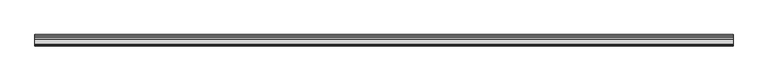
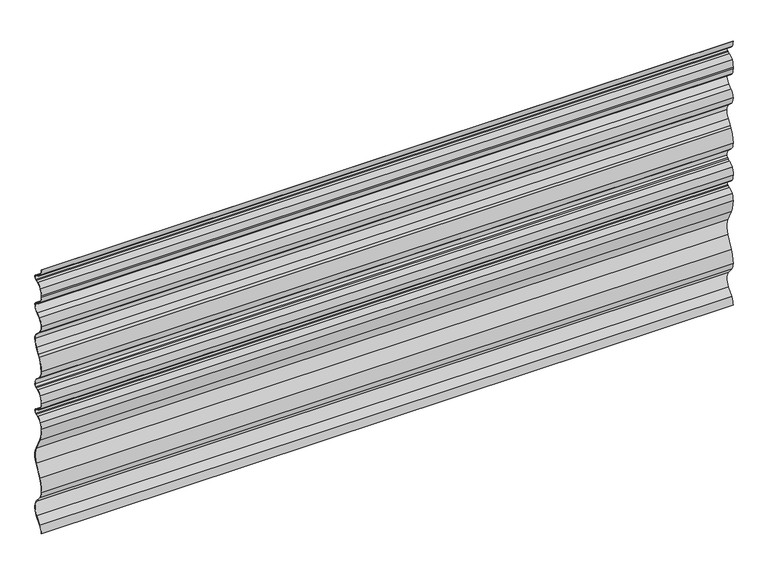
"""IFC4 building model written with IfcOpenShell, lengths in millimetres: plate geometry, Ritmica Horizontal 928 : Ritmica Horizontal 928."""

from ifc_helpers import new_model, si_unit, frame, origin, place, context, project, spatial, polyline, circle_curve, source, transform, mapped, element, save
from ifc_brep_helpers import plane_surface, cylinder_surface, revolved_surface, advanced_brep


def plate_fcad7bac(model_context):
    return source(origin(), model_context, "Body", "AdvancedBrep", [
        advanced_brep(
        [(-1149.0935453, 6.5092615, 908.0620129), (-1149.0935453, 21.2621067, 895.6153968), (-1149.0935453, 28.45755, 892.7364297), (-1149.0935453, 31.9226364, 891.0770661), (-1149.0935453, 31.9284533, 875.0954695), (-1149.0935453, 28.4645758, 873.4335839), (-1149.0935453, 21.2712303, 870.5493796), (-1149.0935453, 6.5274495, 858.0920274), (-1149.0935453, 0.7421798, 836.9983174), (-1149.0935453, 0.7421798, 831.6596456), (-1149.0935453, 6.5447465, 810.5701527), (-1149.0935453, 21.2975918, 798.1235366), (-1149.0935453, 28.493035, 795.2445695), (-1149.0935453, 31.9581214, 793.5852059), (-1149.0935453, 36.9921573, 785.5962388), (-1149.0935453, 24.9656186, 760.6206134), (-1149.0935453, 12.9828956, 751.0704574), (-1149.0935453, 1.0048783, 728.5919745), (-1149.0935453, 13.0090533, 701.127971), (-1149.0935453, 24.9992939, 690.0241978), (-1149.0935453, 37.0440106, 665.0573339), (-1149.0935453, 28.6299997, 638.3240963), (-1149.0935453, 17.4991449, 620.9910926), (-1149.0935453, 13.1043036, 613.5575548), (-1149.0935453, 0.921776, 569.3793833), (-1149.0935453, 12.9259511, 541.9153798), (-1149.0935453, 24.9161915, 530.8116067), (-1149.0935453, 36.9609087, 505.8415328), (-1149.0935453, 31.9326896, 497.8521133), (-1149.0935453, 28.4688119, 496.1902275), (-1149.0935453, 21.2754341, 493.3060102), (-1149.0935453, 6.5316868, 480.8486726), (-1149.0935453, 0.8337564, 457.0856569), (-1149.0935453, 6.3430179, 437.5469103), (-1149.0935453, 21.0958632, 425.1002943), (-1149.0935453, 28.2913064, 422.2213272), (-1149.0935453, 31.7563928, 420.5619636), (-1149.0935453, 31.7622098, 404.580367), (-1149.0935453, 28.2983323, 402.9184814), (-1149.0935453, 21.1049867, 400.034277), (-1149.0935453, 6.361206, 387.5769248), (-1149.0935453, 0.8661693, 368.0341733), (-1149.0935453, 10.0476711, 324.2892209), (-1149.0935453, 30.4443377, 283.7581494), (-1149.0935453, 30.4639577, 229.8542794), (-1149.0935453, 10.0968014, 189.3083707), (-1149.0935453, 0.9471466, 145.5567461), (-1149.0935453, 9.5590077, 121.7925982), (-1149.0935453, 28.254799, 99.3683726), (-1149.0935453, 28.274038, 46.5109184), (-1149.0935453, 9.5945757, 23.7707747), (-1149.0935453, 1.0000163, 0.0), (-1149.0935453, 1.63e-05, 0.0), (-1149.0935453, 8.826039, 24.4105804), (-1149.0935453, 27.4885473, 47.1303588), (-1149.0935453, 27.4697594, 98.7483605), (-1149.0935453, 8.790937, 121.1522332), (-1149.0935453, -0.0528427, 145.5386154), (-1149.0935453, 9.1993025, 189.7494732), (-1149.0935453, 29.5703625, 230.3031531), (-1149.0935453, 29.5510695, 283.3086253), (-1149.0935453, 9.1504935, 323.8474651), (-1149.0935453, -0.133833, 368.0515751), (-1149.0935453, 5.5079347, 388.0983921), (-1149.0935453, 20.7330524, 400.9625361), (-1149.0935453, 27.895533, 403.834365), (-1149.0935453, 31.3296428, 405.4819688), (-1149.0935453, 31.3244823, 419.6600471), (-1149.0935453, 27.889174, 421.3051505), (-1149.0935453, 20.7246046, 424.1717647), (-1149.0935453, 5.4901265, 437.024822), (-1149.0935453, -0.1662181, 457.0529178), (-1149.0935453, 5.6750593, 481.3646468), (-1149.0935453, 20.9034647, 494.2342551), (-1149.0935453, 28.0660127, 497.1061111), (-1149.0935453, 31.5001226, 498.7537151), (-1149.0935453, 35.9609087, 505.841531), (-1149.0935453, 24.2645169, 530.052163), (-1149.0935453, 12.2464871, 541.1816709), (-1149.0935453, -0.0782183, 569.3680226), (-1149.0935453, 12.2502128, 614.0778463), (-1149.0935453, 16.6477304, 621.5159109), (-1149.0935453, 27.7982686, 638.8795656), (-1149.0935453, 36.04401, 665.0587755), (-1149.0935453, 24.3475224, 689.2648438), (-1149.0935453, 12.3295893, 700.3942621), (-1149.0935453, 0.0048783, 728.5916105), (-1149.0935453, 12.391292, 751.8777021), (-1149.0935453, 24.342358, 761.4026277), (-1149.0935453, 35.9921573, 785.5958749), (-1149.0935453, 31.5262109, 792.6832895), (-1149.0935453, 28.0909026, 794.3283929), (-1149.0935453, 20.9248539, 797.1955989), (-1149.0935453, 5.6893168, 810.0521734), (-1149.0935453, -0.2558769, 831.6592816), (-1149.0935453, -0.2578202, 836.9981365), (-1149.0935453, 5.6708241, 858.6080051), (-1149.0935453, 20.8992959, 871.4776387), (-1149.0935453, 28.0617766, 874.3494676), (-1149.0935453, 31.4958863, 875.9970713), (-1149.0935453, 31.4907258, 890.1751497), (-1149.0935453, 28.0554176, 891.8202531), (-1149.0935453, 20.8908482, 894.6868673), (-1149.0935453, 5.6563701, 907.5399245), (-1149.0935453, 0.0, 927.600395), (-1149.0935453, 1.0000001, 927.600395), (1149.0935453, 6.5092615, 908.0620129), (1149.0935453, 1.0000001, 927.600395), (1149.0935453, 0.0, 927.600395), (1149.0935453, 5.6563701, 907.5399245), (1149.0935453, 20.8908482, 894.6868673), (1149.0935453, 28.0554176, 891.8202531), (1149.0935453, 31.4907258, 890.1751497), (1149.0935453, 31.4958863, 875.9970713), (1149.0935453, 28.0617766, 874.3494676), (1149.0935453, 20.8992959, 871.4776387), (1149.0935453, 5.6708241, 858.6080051), (1149.0935453, -0.2578202, 836.9981365), (1149.0935453, -0.2578202, 831.6596456), (1149.0935453, 5.6893168, 810.0521734), (1149.0935453, 20.9248539, 797.1955989), (1149.0935453, 28.0909026, 794.3283929), (1149.0935453, 31.5262109, 792.6832895), (1149.0935453, 35.9921573, 785.5958749), (1149.0935453, 24.342358, 761.4026277), (1149.0935453, 12.391292, 751.8777021), (1149.0935453, 0.0048783, 728.5916105), (1149.0935453, 12.3295893, 700.3942621), (1149.0935453, 24.3475224, 689.2648438), (1149.0935453, 36.04401, 665.0587755), (1149.0935453, 27.7982686, 638.8795656), (1149.0935453, 16.6477304, 621.5159109), (1149.0935453, 12.2502128, 614.0778463), (1149.0935453, -0.0782183, 569.3680226), (1149.0935453, 12.2464871, 541.1816709), (1149.0935453, 24.2645169, 530.052163), (1149.0935453, 35.9609087, 505.841531), (1149.0935453, 31.5001226, 498.7537151), (1149.0935453, 28.0660127, 497.1061111), (1149.0935453, 20.9034647, 494.2342551), (1149.0935453, 5.6750593, 481.3646468), (1149.0935453, -0.1662181, 457.0529178), (1149.0935453, 5.4901265, 437.024822), (1149.0935453, 20.7246046, 424.1717647), (1149.0935453, 27.889174, 421.3051505), (1149.0935453, 31.3244823, 419.6600471), (1149.0935453, 31.3296428, 405.4819688), (1149.0935453, 27.895533, 403.834365), (1149.0935453, 20.7330524, 400.9625361), (1149.0935453, 5.5079347, 388.0983921), (1149.0935453, -0.133833, 368.0515751), (1149.0935453, 9.1504935, 323.8474651), (1149.0935453, 29.5510695, 283.3086253), (1149.0935453, 29.5703625, 230.3031531), (1149.0935453, 9.1993025, 189.7494732), (1149.0935453, -0.0528427, 145.5386154), (1149.0935453, 8.790937, 121.1522332), (1149.0935453, 27.4697594, 98.7483605), (1149.0935453, 27.4885473, 47.1303588), (1149.0935453, 8.826039, 24.4105804), (1149.0935453, 1.63e-05, 0.0), (1149.0935453, 1.0000163, 0.0), (1149.0935453, 9.5945757, 23.7707747), (1149.0935453, 28.274038, 46.5109184), (1149.0935453, 28.254799, 99.3683726), (1149.0935453, 9.5590077, 121.7925982), (1149.0935453, 0.9471466, 145.5567461), (1149.0935453, 10.0968014, 189.3083707), (1149.0935453, 30.4639577, 229.8542794), (1149.0935453, 30.4443377, 283.7581494), (1149.0935453, 10.0476711, 324.2892209), (1149.0935453, 0.8661693, 368.0341733), (1149.0935453, 6.361206, 387.5769248), (1149.0935453, 21.1049867, 400.034277), (1149.0935453, 28.2983323, 402.9184814), (1149.0935453, 31.7622098, 404.580367), (1149.0935453, 31.7563928, 420.5619636), (1149.0935453, 28.2913064, 422.2213272), (1149.0935453, 21.0958632, 425.1002943), (1149.0935453, 6.3430179, 437.5469103), (1149.0935453, 0.8337564, 457.0856569), (1149.0935453, 6.5316868, 480.8486726), (1149.0935453, 21.2754341, 493.3060102), (1149.0935453, 28.4688119, 496.1902275), (1149.0935453, 31.9326896, 497.8521133), (1149.0935453, 36.9609087, 505.8415328), (1149.0935453, 24.9161915, 530.8116067), (1149.0935453, 12.9259511, 541.9153798), (1149.0935453, 0.921776, 569.3793833), (1149.0935453, 13.1043036, 613.5575548), (1149.0935453, 17.4991449, 620.9910926), (1149.0935453, 28.6299997, 638.3240963), (1149.0935453, 37.0440106, 665.0573339), (1149.0935453, 24.9992939, 690.0241978), (1149.0935453, 13.0090533, 701.127971), (1149.0935453, 1.0048783, 728.5919745), (1149.0935453, 12.9828956, 751.0704574), (1149.0935453, 24.9656186, 760.6206134), (1149.0935453, 36.9921573, 785.5962388), (1149.0935453, 31.9581214, 793.5852059), (1149.0935453, 28.493035, 795.2445695), (1149.0935453, 21.2975918, 798.1235366), (1149.0935453, 6.5447465, 810.5701527), (1149.0935453, 0.744123, 831.6596456), (1149.0935453, 0.7421798, 836.9983174), (1149.0935453, 6.5274495, 858.0920274), (1149.0935453, 21.2712303, 870.5493796), (1149.0935453, 28.4645758, 873.4335839), (1149.0935453, 31.9284533, 875.0954695), (1149.0935453, 31.9226364, 891.0770661), (1149.0935453, 28.45755, 892.7364297), (1149.0935453, 21.2621067, 895.6153968)],
        [
            (0, 1, circle_curve(frame((-1149.0935453, 32.6219637, 924.0466233), z_axis=(1.0, 0.0, 0.0), x_axis=(0.0, 0.0, 1.0)), 30.6166783)),
            (1, 2),
            (2, 3),
            (3, 4, circle_curve(frame((-1149.0935453, 28.0953282, 883.0848737), z_axis=(-1.0, 0.0, 0.0), x_axis=(0.0, 0.0, 1.0)), 8.8613445)),
            (4, 5),
            (5, 6),
            (6, 7, circle_curve(frame((-1149.0935453, 32.651781, 842.1264302), z_axis=(1.0, 0.0, 0.0), x_axis=(0.0, 0.0, 1.0)), 30.6166783)),
            (7, 8, circle_curve(frame((-1149.0935453, 42.034972, 837.0133472), z_axis=(1.0, 0.0, 0.0), x_axis=(0.0, 0.0, 1.0)), 41.2927949)),
            (8, 9),
            (9, 10, circle_curve(frame((-1149.0935453, 42.0369151, 831.6746753), z_axis=(1.0, 0.0, 0.0), x_axis=(0.0, 0.0, 1.0)), 41.2927949)),
            (10, 11, circle_curve(frame((-1149.0935453, 32.8606059, 826.7955631), z_axis=(1.0, 0.0, 0.0), x_axis=(0.0, 0.0, 1.0)), 30.9158276)),
            (11, 12),
            (12, 13),
            (13, 14, circle_curve(frame((-1149.0935453, 28.1308133, 785.5930135), z_axis=(-1.0, 0.0, 0.0), x_axis=(0.0, 0.0, 1.0)), 8.8613445)),
            (14, 15, circle_curve(frame((-1149.0935453, 5.0694602, 785.5846196), z_axis=(-1.0, 0.0, 0.0), x_axis=(0.0, 0.0, 1.0)), 31.9226992)),
            (15, 16),
            (16, 17, circle_curve(frame((-1149.0935453, 28.0674647, 728.6018247), z_axis=(1.0, 0.0, 0.0), x_axis=(0.0, 0.0, 1.0)), 27.0625882)),
            (17, 18, circle_curve(frame((-1149.0935453, 38.4552002, 728.6056057), z_axis=(1.0, 0.0, 0.0), x_axis=(0.0, 0.0, 1.0)), 37.4503244)),
            (18, 19),
            (19, 20, circle_curve(frame((-1149.0935453, 5.1213136, 665.0457146), z_axis=(-1.0, 0.0, 0.0), x_axis=(0.0, 0.0, 1.0)), 31.9226992)),
            (20, 21, circle_curve(frame((-1149.0935453, -10.1198118, 665.2109304), z_axis=(-1.0, 0.0, 0.0), x_axis=(0.0, 0.0, 1.0)), 47.1640725)),
            (21, 22),
            (22, 23),
            (23, 24, circle_curve(frame((-1149.0935453, 80.6713796, 571.1565204), z_axis=(1.0, 0.0, 0.0), x_axis=(0.0, 0.0, 1.0)), 79.769402)),
            (24, 25, circle_curve(frame((-1149.0935453, 38.372098, 569.3930144), z_axis=(1.0, 0.0, 0.0), x_axis=(0.0, 0.0, 1.0)), 37.4503244)),
            (25, 26),
            (26, 27, circle_curve(frame((-1149.0935453, 5.0555271, 505.8414768), z_axis=(-1.0, 0.0, 0.0), x_axis=(0.0, 0.0, 1.0)), 31.9053816)),
            (27, 28, circle_curve(frame((-1149.0935453, 28.0995643, 505.8415173), z_axis=(-1.0, 0.0, 0.0), x_axis=(0.0, 0.0, 1.0)), 8.8613444)),
            (28, 29),
            (29, 30),
            (30, 31, circle_curve(frame((-1149.0935453, 32.6560172, 464.8830737), z_axis=(1.0, 0.0, 0.0), x_axis=(0.0, 0.0, 1.0)), 30.6166783)),
            (31, 32, circle_curve(frame((-1149.0935453, 42.0392082, 459.7699907), z_axis=(1.0, 0.0, 0.0), x_axis=(0.0, 0.0, 1.0)), 41.2927948)),
            (32, 33, circle_curve(frame((-1149.0935453, 38.2840783, 457.0992876), z_axis=(1.0, 0.0, 0.0), x_axis=(0.0, 0.0, 1.0)), 37.4503244)),
            (33, 34, circle_curve(frame((-1149.0935453, 32.4557202, 453.5315208), z_axis=(1.0, 0.0, 0.0), x_axis=(0.0, 0.0, 1.0)), 30.6166783)),
            (34, 35),
            (35, 36),
            (36, 37, circle_curve(frame((-1149.0935453, 27.9290847, 412.5697711), z_axis=(-1.0, 0.0, 0.0), x_axis=(0.0, 0.0, 1.0)), 8.8613445)),
            (37, 38),
            (38, 39),
            (39, 40, circle_curve(frame((-1149.0935453, 32.4855375, 371.6113276), z_axis=(1.0, 0.0, 0.0), x_axis=(0.0, 0.0, 1.0)), 30.6166783)),
            (40, 41, circle_curve(frame((-1149.0935453, 38.3164913, 368.0478045), z_axis=(1.0, 0.0, 0.0), x_axis=(0.0, 0.0, 1.0)), 37.4503244)),
            (41, 42, circle_curve(frame((-1149.0935453, 94.1023268, 364.7672254), z_axis=(1.0, 0.0, 0.0), x_axis=(0.0, 0.0, 1.0)), 93.293376)),
            (42, 43),
            (43, 44, circle_curve(frame((-1149.0935453, -23.1517542, 256.7867029), z_axis=(-1.0, 0.0, 0.0), x_axis=(0.0, 0.0, 1.0)), 60.0)),
            (44, 45),
            (45, 46, circle_curve(frame((-1149.0935453, 94.1809012, 148.8915653), z_axis=(1.0, 0.0, 0.0), x_axis=(0.0, 0.0, 1.0)), 93.293376)),
            (46, 47, circle_curve(frame((-1149.0935453, 38.0785645, 145.5702612), z_axis=(1.0, 0.0, 0.0), x_axis=(0.0, 0.0, 1.0)), 37.1314203)),
            (47, 48),
            (48, 49, circle_curve(frame((-1149.0935453, -7.0897542, 72.9267773), z_axis=(-1.0, 0.0, 0.0), x_axis=(0.0, 0.0, 1.0)), 44.1406321)),
            (49, 50),
            (50, 51, circle_curve(frame((-1149.0935453, 38.131434, 0.0138791), z_axis=(1.0, 0.0, 0.0), x_axis=(0.0, 0.0, 1.0)), 37.1314203)),
            (51, 52),
            (52, 53, circle_curve(frame((-1149.0935453, 38.131434, 0.0138791), z_axis=(-1.0, 0.0, 0.0), x_axis=(0.0, 0.0, 1.0)), 38.1314203)),
            (53, 54),
            (54, 55, circle_curve(frame((-1149.0935453, -7.0897542, 72.9267773), z_axis=(1.0, 0.0, 0.0), x_axis=(0.0, 0.0, 1.0)), 43.1406321)),
            (55, 56),
            (56, 57, circle_curve(frame((-1149.0935453, 38.0785645, 145.5702612), z_axis=(-1.0, 0.0, 0.0), x_axis=(0.0, 0.0, 1.0)), 38.1314203)),
            (57, 58, circle_curve(frame((-1149.0935453, 94.1809012, 148.8915653), z_axis=(-1.0, 0.0, 0.0), x_axis=(0.0, 0.0, 1.0)), 94.293376)),
            (58, 59),
            (59, 60, circle_curve(frame((-1149.0935453, -23.1517542, 256.7867029), z_axis=(1.0, 0.0, 0.0), x_axis=(0.0, 0.0, 1.0)), 59.0)),
            (60, 61),
            (61, 62, circle_curve(frame((-1149.0935453, 94.1023268, 364.7672254), z_axis=(-1.0, 0.0, 0.0), x_axis=(0.0, 0.0, 1.0)), 94.293376)),
            (62, 63, circle_curve(frame((-1149.0935453, 38.3164913, 368.0478045), z_axis=(-1.0, 0.0, 0.0), x_axis=(0.0, 0.0, 1.0)), 38.4503244)),
            (63, 64, circle_curve(frame((-1149.0935453, 32.4855375, 371.6113276), z_axis=(-1.0, 0.0, 0.0), x_axis=(0.0, 0.0, 1.0)), 31.6166783)),
            (64, 65),
            (65, 66),
            (66, 67, circle_curve(frame((-1149.0935453, 27.9290847, 412.5697711), z_axis=(1.0, 0.0, 0.0), x_axis=(0.0, 0.0, 1.0)), 7.8613445)),
            (67, 68),
            (68, 69),
            (69, 70, circle_curve(frame((-1149.0935453, 32.4557202, 453.5315208), z_axis=(-1.0, 0.0, 0.0), x_axis=(0.0, 0.0, 1.0)), 31.6166783)),
            (70, 71, circle_curve(frame((-1149.0935453, 38.2840783, 457.0992876), z_axis=(-1.0, 0.0, 0.0), x_axis=(0.0, 0.0, 1.0)), 38.4503244)),
            (71, 72, circle_curve(frame((-1149.0935453, 42.0392082, 459.7699907), z_axis=(-1.0, 0.0, 0.0), x_axis=(0.0, 0.0, 1.0)), 42.2927948)),
            (72, 73, circle_curve(frame((-1149.0935453, 32.6560172, 464.8830737), z_axis=(-1.0, 0.0, 0.0), x_axis=(0.0, 0.0, 1.0)), 31.6166782)),
            (73, 74),
            (74, 75),
            (75, 76, circle_curve(frame((-1149.0935453, 28.0995643, 505.8415173), z_axis=(1.0, 0.0, 0.0), x_axis=(0.0, 0.0, 1.0)), 7.8613444)),
            (76, 77, circle_curve(frame((-1149.0935453, 5.0555271, 505.8414768), z_axis=(1.0, 0.0, 0.0), x_axis=(0.0, 0.0, 1.0)), 30.9053816)),
            (77, 78),
            (78, 79, circle_curve(frame((-1149.0935453, 38.372098, 569.3930144), z_axis=(-1.0, 0.0, 0.0), x_axis=(0.0, 0.0, 1.0)), 38.4503244)),
            (79, 80, circle_curve(frame((-1149.0935453, 80.6713796, 571.1565204), z_axis=(-1.0, 0.0, 0.0), x_axis=(0.0, 0.0, 1.0)), 80.769402)),
            (80, 81),
            (81, 82),
            (82, 83, circle_curve(frame((-1149.0935453, -10.1198118, 665.2109304), z_axis=(1.0, 0.0, 0.0), x_axis=(0.0, 0.0, 1.0)), 46.1640725)),
            (83, 84, circle_curve(frame((-1149.0935453, 5.1213136, 665.0457146), z_axis=(1.0, 0.0, 0.0), x_axis=(0.0, 0.0, 1.0)), 30.9226992)),
            (84, 85),
            (85, 86, circle_curve(frame((-1149.0935453, 38.4552002, 728.6056057), z_axis=(-1.0, 0.0, 0.0), x_axis=(0.0, 0.0, 1.0)), 38.4503244)),
            (86, 87, circle_curve(frame((-1149.0935453, 28.0674647, 728.6018247), z_axis=(-1.0, 0.0, 0.0), x_axis=(0.0, 0.0, 1.0)), 28.0625882)),
            (87, 88),
            (88, 89, circle_curve(frame((-1149.0935453, 5.0694602, 785.5846196), z_axis=(1.0, 0.0, 0.0), x_axis=(0.0, 0.0, 1.0)), 30.9226992)),
            (89, 90, circle_curve(frame((-1149.0935453, 28.1308133, 785.5930135), z_axis=(1.0, 0.0, 0.0), x_axis=(0.0, 0.0, 1.0)), 7.8613445)),
            (90, 91),
            (91, 92),
            (92, 93, circle_curve(frame((-1149.0935453, 32.8606059, 826.7955631), z_axis=(-1.0, 0.0, 0.0), x_axis=(0.0, 0.0, 1.0)), 31.9158276)),
            (93, 94, circle_curve(frame((-1149.0935453, 42.0369151, 831.6746753), z_axis=(-1.0, 0.0, 0.0), x_axis=(0.0, 0.0, 1.0)), 42.2927949)),
            (94, 95),
            (95, 96, circle_curve(frame((-1149.0935453, 42.034972, 837.0133472), z_axis=(-1.0, 0.0, 0.0), x_axis=(0.0, 0.0, 1.0)), 42.2927949)),
            (96, 97, circle_curve(frame((-1149.0935453, 32.651781, 842.1264302), z_axis=(-1.0, 0.0, 0.0), x_axis=(0.0, 0.0, 1.0)), 31.6166783)),
            (97, 98),
            (98, 99),
            (99, 100, circle_curve(frame((-1149.0935453, 28.0953282, 883.0848737), z_axis=(1.0, 0.0, 0.0), x_axis=(0.0, 0.0, 1.0)), 7.8613445)),
            (100, 101),
            (101, 102),
            (102, 103, circle_curve(frame((-1149.0935453, 32.6219637, 924.0466233), z_axis=(-1.0, 0.0, 0.0), x_axis=(0.0, 0.0, 1.0)), 31.6166783)),
            (103, 104, circle_curve(frame((-1149.0935453, 38.4503219, 927.6143902), z_axis=(-1.0, 0.0, 0.0), x_axis=(0.0, 0.0, 1.0)), 38.4503244)),
            (104, 105),
            (105, 0, circle_curve(frame((-1149.0935453, 38.4503219, 927.6143902), z_axis=(1.0, 0.0, 0.0), x_axis=(0.0, 0.0, 1.0)), 37.4503244)),
            (106, 107, circle_curve(frame((1149.0935453, 38.4503219, 927.6143902), z_axis=(-1.0, 0.0, 0.0), x_axis=(0.0, 0.0, 1.0)), 37.4503244)),
            (107, 108),
            (108, 109, circle_curve(frame((1149.0935453, 38.4503219, 927.6143902), z_axis=(1.0, 0.0, 0.0), x_axis=(0.0, 0.0, 1.0)), 38.4503244)),
            (109, 110, circle_curve(frame((1149.0935453, 32.6219637, 924.0466233), z_axis=(1.0, 0.0, 0.0), x_axis=(0.0, 0.0, 1.0)), 31.6166783)),
            (110, 111),
            (111, 112),
            (112, 113, circle_curve(frame((1149.0935453, 28.0953282, 883.0848737), z_axis=(-1.0, 0.0, 0.0), x_axis=(0.0, 0.0, 1.0)), 7.8613445)),
            (113, 114),
            (114, 115),
            (115, 116, circle_curve(frame((1149.0935453, 32.651781, 842.1264302), z_axis=(1.0, 0.0, 0.0), x_axis=(0.0, 0.0, 1.0)), 31.6166783)),
            (116, 117, circle_curve(frame((1149.0935453, 42.034972, 837.0133472), z_axis=(1.0, 0.0, 0.0), x_axis=(0.0, 0.0, 1.0)), 42.2927949)),
            (117, 118),
            (118, 119, circle_curve(frame((1149.0935453, 42.0369151, 831.6746753), z_axis=(1.0, 0.0, 0.0), x_axis=(0.0, 0.0, 1.0)), 42.2927949)),
            (119, 120, circle_curve(frame((1149.0935453, 32.8606059, 826.7955631), z_axis=(1.0, 0.0, 0.0), x_axis=(0.0, 0.0, 1.0)), 31.9158276)),
            (120, 121),
            (121, 122),
            (122, 123, circle_curve(frame((1149.0935453, 28.1308133, 785.5930135), z_axis=(-1.0, 0.0, 0.0), x_axis=(0.0, 0.0, 1.0)), 7.8613445)),
            (123, 124, circle_curve(frame((1149.0935453, 5.0694602, 785.5846196), z_axis=(-1.0, 0.0, 0.0), x_axis=(0.0, 0.0, 1.0)), 30.9226992)),
            (124, 125),
            (125, 126, circle_curve(frame((1149.0935453, 28.0674647, 728.6018247), z_axis=(1.0, 0.0, 0.0), x_axis=(0.0, 0.0, 1.0)), 28.0625882)),
            (126, 127, circle_curve(frame((1149.0935453, 38.4552002, 728.6056057), z_axis=(1.0, 0.0, 0.0), x_axis=(0.0, 0.0, 1.0)), 38.4503244)),
            (127, 128),
            (128, 129, circle_curve(frame((1149.0935453, 5.1213136, 665.0457146), z_axis=(-1.0, 0.0, 0.0), x_axis=(0.0, 0.0, 1.0)), 30.9226992)),
            (129, 130, circle_curve(frame((1149.0935453, -10.1198118, 665.2109304), z_axis=(-1.0, 0.0, 0.0), x_axis=(0.0, 0.0, 1.0)), 46.1640725)),
            (130, 131),
            (131, 132),
            (132, 133, circle_curve(frame((1149.0935453, 80.6713796, 571.1565204), z_axis=(1.0, 0.0, 0.0), x_axis=(0.0, 0.0, 1.0)), 80.769402)),
            (133, 134, circle_curve(frame((1149.0935453, 38.372098, 569.3930144), z_axis=(1.0, 0.0, 0.0), x_axis=(0.0, 0.0, 1.0)), 38.4503244)),
            (134, 135),
            (135, 136, circle_curve(frame((1149.0935453, 5.0555271, 505.8414768), z_axis=(-1.0, 0.0, 0.0), x_axis=(0.0, 0.0, 1.0)), 30.9053816)),
            (136, 137, circle_curve(frame((1149.0935453, 28.0995643, 505.8415173), z_axis=(-1.0, 0.0, 0.0), x_axis=(0.0, 0.0, 1.0)), 7.8613444)),
            (137, 138),
            (138, 139),
            (139, 140, circle_curve(frame((1149.0935453, 32.6560172, 464.8830737), z_axis=(1.0, 0.0, 0.0), x_axis=(0.0, 0.0, 1.0)), 31.6166782)),
            (140, 141, circle_curve(frame((1149.0935453, 42.0392082, 459.7699907), z_axis=(1.0, 0.0, 0.0), x_axis=(0.0, 0.0, 1.0)), 42.2927948)),
            (141, 142, circle_curve(frame((1149.0935453, 38.2840783, 457.0992876), z_axis=(1.0, 0.0, 0.0), x_axis=(0.0, 0.0, 1.0)), 38.4503244)),
            (142, 143, circle_curve(frame((1149.0935453, 32.4557202, 453.5315208), z_axis=(1.0, 0.0, 0.0), x_axis=(0.0, 0.0, 1.0)), 31.6166783)),
            (143, 144),
            (144, 145),
            (145, 146, circle_curve(frame((1149.0935453, 27.9290847, 412.5697711), z_axis=(-1.0, 0.0, 0.0), x_axis=(0.0, 0.0, 1.0)), 7.8613445)),
            (146, 147),
            (147, 148),
            (148, 149, circle_curve(frame((1149.0935453, 32.4855375, 371.6113276), z_axis=(1.0, 0.0, 0.0), x_axis=(0.0, 0.0, 1.0)), 31.6166783)),
            (149, 150, circle_curve(frame((1149.0935453, 38.3164913, 368.0478045), z_axis=(1.0, 0.0, 0.0), x_axis=(0.0, 0.0, 1.0)), 38.4503244)),
            (150, 151, circle_curve(frame((1149.0935453, 94.1023268, 364.7672254), z_axis=(1.0, 0.0, 0.0), x_axis=(0.0, 0.0, 1.0)), 94.293376)),
            (151, 152),
            (152, 153, circle_curve(frame((1149.0935453, -23.1517542, 256.7867029), z_axis=(-1.0, 0.0, 0.0), x_axis=(0.0, 0.0, 1.0)), 59.0)),
            (153, 154),
            (154, 155, circle_curve(frame((1149.0935453, 94.1809012, 148.8915653), z_axis=(1.0, 0.0, 0.0), x_axis=(0.0, 0.0, 1.0)), 94.293376)),
            (155, 156, circle_curve(frame((1149.0935453, 38.0785645, 145.5702612), z_axis=(1.0, 0.0, 0.0), x_axis=(0.0, 0.0, 1.0)), 38.1314203)),
            (156, 157),
            (157, 158, circle_curve(frame((1149.0935453, -7.0897542, 72.9267773), z_axis=(-1.0, 0.0, 0.0), x_axis=(0.0, 0.0, 1.0)), 43.1406321)),
            (158, 159),
            (159, 160, circle_curve(frame((1149.0935453, 38.131434, 0.0138791), z_axis=(1.0, 0.0, 0.0), x_axis=(0.0, 0.0, 1.0)), 38.1314203)),
            (160, 161),
            (161, 162, circle_curve(frame((1149.0935453, 38.131434, 0.0138791), z_axis=(-1.0, 0.0, 0.0), x_axis=(0.0, 0.0, 1.0)), 37.1314203)),
            (162, 163),
            (163, 164, circle_curve(frame((1149.0935453, -7.0897542, 72.9267773), z_axis=(1.0, 0.0, 0.0), x_axis=(0.0, 0.0, 1.0)), 44.1406321)),
            (164, 165),
            (165, 166, circle_curve(frame((1149.0935453, 38.0785645, 145.5702612), z_axis=(-1.0, 0.0, 0.0), x_axis=(0.0, 0.0, 1.0)), 37.1314203)),
            (166, 167, circle_curve(frame((1149.0935453, 94.1809012, 148.8915653), z_axis=(-1.0, 0.0, 0.0), x_axis=(0.0, 0.0, 1.0)), 93.293376)),
            (167, 168),
            (168, 169, circle_curve(frame((1149.0935453, -23.1517542, 256.7867029), z_axis=(1.0, 0.0, 0.0), x_axis=(0.0, 0.0, 1.0)), 60.0)),
            (169, 170),
            (170, 171, circle_curve(frame((1149.0935453, 94.1023268, 364.7672254), z_axis=(-1.0, 0.0, 0.0), x_axis=(0.0, 0.0, 1.0)), 93.293376)),
            (171, 172, circle_curve(frame((1149.0935453, 38.3164913, 368.0478045), z_axis=(-1.0, 0.0, 0.0), x_axis=(0.0, 0.0, 1.0)), 37.4503244)),
            (172, 173, circle_curve(frame((1149.0935453, 32.4855375, 371.6113276), z_axis=(-1.0, 0.0, 0.0), x_axis=(0.0, 0.0, 1.0)), 30.6166783)),
            (173, 174),
            (174, 175),
            (175, 176, circle_curve(frame((1149.0935453, 27.9290847, 412.5697711), z_axis=(1.0, 0.0, 0.0), x_axis=(0.0, 0.0, 1.0)), 8.8613445)),
            (176, 177),
            (177, 178),
            (178, 179, circle_curve(frame((1149.0935453, 32.4557202, 453.5315208), z_axis=(-1.0, 0.0, 0.0), x_axis=(0.0, 0.0, 1.0)), 30.6166783)),
            (179, 180, circle_curve(frame((1149.0935453, 38.2840783, 457.0992876), z_axis=(-1.0, 0.0, 0.0), x_axis=(0.0, 0.0, 1.0)), 37.4503244)),
            (180, 181, circle_curve(frame((1149.0935453, 42.0392082, 459.7699907), z_axis=(-1.0, 0.0, 0.0), x_axis=(0.0, 0.0, 1.0)), 41.2927948)),
            (181, 182, circle_curve(frame((1149.0935453, 32.6560172, 464.8830737), z_axis=(-1.0, 0.0, 0.0), x_axis=(0.0, 0.0, 1.0)), 30.6166783)),
            (182, 183),
            (183, 184),
            (184, 185, circle_curve(frame((1149.0935453, 28.0995643, 505.8415173), z_axis=(1.0, 0.0, 0.0), x_axis=(0.0, 0.0, 1.0)), 8.8613444)),
            (185, 186, circle_curve(frame((1149.0935453, 5.0555271, 505.8414768), z_axis=(1.0, 0.0, 0.0), x_axis=(0.0, 0.0, 1.0)), 31.9053816)),
            (186, 187),
            (187, 188, circle_curve(frame((1149.0935453, 38.372098, 569.3930144), z_axis=(-1.0, 0.0, 0.0), x_axis=(0.0, 0.0, 1.0)), 37.4503244)),
            (188, 189, circle_curve(frame((1149.0935453, 80.6713796, 571.1565204), z_axis=(-1.0, 0.0, 0.0), x_axis=(0.0, 0.0, 1.0)), 79.769402)),
            (189, 190),
            (190, 191),
            (191, 192, circle_curve(frame((1149.0935453, -10.1198118, 665.2109304), z_axis=(1.0, 0.0, 0.0), x_axis=(0.0, 0.0, 1.0)), 47.1640725)),
            (192, 193, circle_curve(frame((1149.0935453, 5.1213136, 665.0457146), z_axis=(1.0, 0.0, 0.0), x_axis=(0.0, 0.0, 1.0)), 31.9226992)),
            (193, 194),
            (194, 195, circle_curve(frame((1149.0935453, 38.4552002, 728.6056057), z_axis=(-1.0, 0.0, 0.0), x_axis=(0.0, 0.0, 1.0)), 37.4503244)),
            (195, 196, circle_curve(frame((1149.0935453, 28.0674647, 728.6018247), z_axis=(-1.0, 0.0, 0.0), x_axis=(0.0, 0.0, 1.0)), 27.0625882)),
            (196, 197),
            (197, 198, circle_curve(frame((1149.0935453, 5.0694602, 785.5846196), z_axis=(1.0, 0.0, 0.0), x_axis=(0.0, 0.0, 1.0)), 31.9226992)),
            (198, 199, circle_curve(frame((1149.0935453, 28.1308133, 785.5930135), z_axis=(1.0, 0.0, 0.0), x_axis=(0.0, 0.0, 1.0)), 8.8613445)),
            (199, 200),
            (200, 201),
            (201, 202, circle_curve(frame((1149.0935453, 32.8606059, 826.7955631), z_axis=(-1.0, 0.0, 0.0), x_axis=(0.0, 0.0, 1.0)), 30.9158276)),
            (202, 203, circle_curve(frame((1149.0935453, 42.0369151, 831.6746753), z_axis=(-1.0, 0.0, 0.0), x_axis=(0.0, 0.0, 1.0)), 41.2927949)),
            (203, 204),
            (204, 205, circle_curve(frame((1149.0935453, 42.034972, 837.0133472), z_axis=(-1.0, 0.0, 0.0), x_axis=(0.0, 0.0, 1.0)), 41.2927949)),
            (205, 206, circle_curve(frame((1149.0935453, 32.651781, 842.1264302), z_axis=(-1.0, 0.0, 0.0), x_axis=(0.0, 0.0, 1.0)), 30.6166783)),
            (206, 207),
            (207, 208),
            (208, 209, circle_curve(frame((1149.0935453, 28.0953282, 883.0848737), z_axis=(1.0, 0.0, 0.0), x_axis=(0.0, 0.0, 1.0)), 8.8613445)),
            (209, 210),
            (210, 211),
            (211, 106, circle_curve(frame((1149.0935453, 32.6219637, 924.0466233), z_axis=(-1.0, 0.0, 0.0), x_axis=(0.0, 0.0, 1.0)), 30.6166783)),
            (0, 106),
            (211, 1),
            (210, 2),
            (209, 3),
            (208, 4),
            (207, 5),
            (206, 6),
            (205, 7),
            (204, 8),
            (203, 9),
            (202, 10),
            (201, 11),
            (200, 12),
            (199, 13),
            (198, 14),
            (197, 15),
            (196, 16),
            (195, 17),
            (194, 18),
            (193, 19),
            (192, 20),
            (191, 21),
            (190, 22),
            (189, 23),
            (188, 24),
            (187, 25),
            (186, 26),
            (185, 27),
            (184, 28),
            (183, 29),
            (182, 30),
            (181, 31),
            (180, 32),
            (179, 33),
            (178, 34),
            (177, 35),
            (176, 36),
            (175, 37),
            (174, 38),
            (173, 39),
            (172, 40),
            (171, 41),
            (170, 42),
            (169, 43),
            (168, 44),
            (167, 45),
            (166, 46),
            (165, 47),
            (164, 48),
            (163, 49),
            (162, 50),
            (161, 51),
            (160, 52),
            (159, 53),
            (158, 54),
            (157, 55),
            (156, 56),
            (155, 57),
            (154, 58),
            (153, 59),
            (152, 60),
            (151, 61),
            (150, 62),
            (149, 63),
            (148, 64),
            (147, 65),
            (146, 66),
            (145, 67),
            (144, 68),
            (143, 69),
            (142, 70),
            (141, 71),
            (140, 72),
            (139, 73),
            (138, 74),
            (137, 75),
            (136, 76),
            (135, 77),
            (134, 78),
            (133, 79),
            (132, 80),
            (131, 81),
            (130, 82),
            (129, 83),
            (128, 84),
            (127, 85),
            (126, 86),
            (125, 87),
            (124, 88),
            (123, 89),
            (122, 90),
            (121, 91),
            (120, 92),
            (119, 93),
            (118, 94),
            (117, 95),
            (116, 96),
            (115, 97),
            (114, 98),
            (113, 99),
            (112, 100),
            (111, 101),
            (110, 102),
            (109, 103),
            (108, 104),
            (107, 105),
        ],
        [
            plane_surface(frame((-1149.0935453, 32.6219637, 954.6633016), z_axis=(-1.0, 0.0, 0.0), x_axis=(0.0, -1.0, 0.0))),
            plane_surface(frame((1149.0935453, 32.6219637, 954.6633016), z_axis=(1.0, 0.0, 0.0), x_axis=(0.0, 1.0, 0.0))),
            revolved_surface(polyline([(1149.0935453, 32.6219637, 954.6633016), (-1149.0935453, 32.6219637, 954.6633016)]), (1149.0935453, 32.6219637, 924.0466233), (1.0, 0.0, 0.0)),
            plane_surface(frame((-1149.0935453, 21.2621067, 895.6153968), z_axis=(0.0, 0.3714785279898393, 0.9284415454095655), x_axis=(1.0, 0.0, 0.0))),
            plane_surface(frame((-1149.0935453, 28.45755, 892.7364297), z_axis=(0.0, 0.43191054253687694, 0.9019164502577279), x_axis=(1.0, 0.0, 0.0))),
            cylinder_surface(frame((1149.0935453, 28.0953282, 883.0848737), z_axis=(-1.0, 0.0, 0.0), x_axis=(0.0, 0.0, 1.0)), 8.8613445),
            plane_surface(frame((-1149.0935453, 31.9284533, 875.0954695), z_axis=(0.0, 0.43256698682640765, -0.9016017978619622), x_axis=(1.0, 0.0, 0.0))),
            plane_surface(frame((-1149.0935453, 28.4645758, 873.4335839), z_axis=(0.0, 0.3721542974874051, -0.928170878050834), x_axis=(1.0, 0.0, 0.0))),
            revolved_surface(polyline([(1149.0935453, 32.651781, 872.7431085), (-1149.0935453, 32.651781, 872.7431085)]), (1149.0935453, 32.651781, 842.1264302), (1.0, 0.0, 0.0)),
            revolved_surface(polyline([(1149.0935453, 42.034972, 878.3061421), (-1149.0935453, 42.034972, 878.3061421)]), (1149.0935453, 42.034972, 837.0133472), (1.0, 0.0, 0.0)),
            plane_surface(frame((-1149.0935453, 0.7421798, 836.9983174), z_axis=(0.0, 1.0, 0.0), x_axis=(1.0, 0.0, 0.0))),
            revolved_surface(polyline([(1149.0935453, 42.0369151, 872.9674702), (-1149.0935453, 42.0369151, 872.9674702)]), (1149.0935453, 42.0369151, 831.6746753), (1.0, 0.0, 0.0)),
            revolved_surface(polyline([(1149.0935453, 32.8606059, 857.7113907), (-1149.0935453, 32.8606059, 857.7113907)]), (1149.0935453, 32.8606059, 826.7955631), (1.0, 0.0, 0.0)),
            plane_surface(frame((-1149.0935453, 21.2975918, 798.1235366), z_axis=(0.0, 0.3714785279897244, 0.9284415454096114), x_axis=(1.0, 0.0, 0.0))),
            plane_surface(frame((-1149.0935453, 28.493035, 795.2445695), z_axis=(0.0, 0.4319105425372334, 0.9019164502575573), x_axis=(1.0, 0.0, 0.0))),
            cylinder_surface(frame((1149.0935453, 28.1308133, 785.5930135), z_axis=(-1.0, 0.0, 0.0), x_axis=(0.0, 0.0, 1.0)), 8.8613445),
            cylinder_surface(frame((1149.0935453, 5.0694602, 785.5846196), z_axis=(-1.0, 0.0, 0.0), x_axis=(0.0, 0.0, 1.0)), 31.9226992),
            plane_surface(frame((-1149.0935453, 24.9656186, 760.6206134), z_axis=(0.0, 0.6232605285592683, -0.7820142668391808), x_axis=(1.0, 0.0, 0.0))),
            revolved_surface(polyline([(1149.0935453, 28.0674647, 755.6644129), (-1149.0935453, 28.0674647, 755.6644129)]), (1149.0935453, 28.0674647, 728.6018247), (1.0, 0.0, 0.0)),
            revolved_surface(polyline([(1149.0935453, 38.4552002, 766.0559301), (-1149.0935453, 38.4552002, 766.0559301)]), (1149.0935453, 38.4552002, 728.6056057), (1.0, 0.0, 0.0)),
            plane_surface(frame((-1149.0935453, 13.0090533, 701.127971), z_axis=(0.0, 0.6794639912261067, 0.7337088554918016), x_axis=(1.0, 0.0, 0.0))),
            cylinder_surface(frame((1149.0935453, 5.1213136, 665.0457146), z_axis=(-1.0, 0.0, 0.0), x_axis=(0.0, 0.0, 1.0)), 31.9226992),
            cylinder_surface(frame((1149.0935453, -10.1198118, 665.2109304), z_axis=(-1.0, 0.0, 0.0), x_axis=(0.0, 0.0, 1.0)), 47.1640725),
            plane_surface(frame((-1149.0935453, 28.6299997, 638.3240963), z_axis=(0.0, 0.8414387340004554, -0.5403525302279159), x_axis=(1.0, 0.0, 0.0))),
            plane_surface(frame((-1149.0935453, 17.4991449, 620.9910926), z_axis=(0.0, 0.8608100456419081, -0.5089263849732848), x_axis=(1.0, 0.0, 0.0))),
            revolved_surface(polyline([(1149.0935453, 80.6713796, 650.9259224), (-1149.0935453, 80.6713796, 650.9259224)]), (1149.0935453, 80.6713796, 571.1565204), (1.0, 0.0, 0.0)),
            revolved_surface(polyline([(1149.0935453, 38.372098, 606.8433388), (-1149.0935453, 38.372098, 606.8433388)]), (1149.0935453, 38.372098, 569.3930144), (1.0, 0.0, 0.0)),
            plane_surface(frame((-1149.0935453, 12.9259511, 541.9153798), z_axis=(0.0, 0.6794639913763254, 0.7337088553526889), x_axis=(1.0, 0.0, 0.0))),
            cylinder_surface(frame((1149.0935453, 5.0555271, 505.8414768), z_axis=(-1.0, 0.0, 0.0), x_axis=(0.0, 0.0, 1.0)), 31.9053816),
            cylinder_surface(frame((1149.0935453, 28.0995643, 505.8415173), z_axis=(-1.0, 0.0, 0.0), x_axis=(0.0, 0.0, 1.0)), 8.8613444),
            plane_surface(frame((-1149.0935453, 31.9326896, 497.8521133), z_axis=(0.0, 0.43256701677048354, -0.9016017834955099), x_axis=(1.0, 0.0, 0.0))),
            plane_surface(frame((-1149.0935453, 28.4688119, 496.1902275), z_axis=(0.0, 0.37215430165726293, -0.9281708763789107), x_axis=(1.0, 0.0, 0.0))),
            revolved_surface(polyline([(1149.0935453, 32.6560172, 495.499752), (-1149.0935453, 32.6560172, 495.499752)]), (1149.0935453, 32.6560172, 464.8830737), (1.0, 0.0, 0.0)),
            revolved_surface(polyline([(1149.0935453, 42.0392082, 501.0627855), (-1149.0935453, 42.0392082, 501.0627855)]), (1149.0935453, 42.0392082, 459.7699907), (1.0, 0.0, 0.0)),
            revolved_surface(polyline([(1149.0935453, 38.2840783, 494.549612), (-1149.0935453, 38.2840783, 494.549612)]), (1149.0935453, 38.2840783, 457.0992876), (1.0, 0.0, 0.0)),
            revolved_surface(polyline([(1149.0935453, 32.4557202, 484.1481991), (-1149.0935453, 32.4557202, 484.1481991)]), (1149.0935453, 32.4557202, 453.5315208), (1.0, 0.0, 0.0)),
            plane_surface(frame((-1149.0935453, 21.0958632, 425.1002943), z_axis=(0.0, 0.3714785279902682, 0.9284415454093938), x_axis=(1.0, 0.0, 0.0))),
            plane_surface(frame((-1149.0935453, 28.2913064, 422.2213272), z_axis=(0.0, 0.43191054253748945, 0.9019164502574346), x_axis=(1.0, 0.0, 0.0))),
            cylinder_surface(frame((1149.0935453, 27.9290847, 412.5697711), z_axis=(-1.0, 0.0, 0.0), x_axis=(0.0, 0.0, 1.0)), 8.8613445),
            plane_surface(frame((-1149.0935453, 31.7622098, 404.580367), z_axis=(0.0, 0.432566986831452, -0.901601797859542), x_axis=(1.0, 0.0, 0.0))),
            plane_surface(frame((-1149.0935453, 28.2983323, 402.9184814), z_axis=(0.0, 0.3721542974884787, -0.9281708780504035), x_axis=(1.0, 0.0, 0.0))),
            revolved_surface(polyline([(1149.0935453, 32.4855375, 402.22800589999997), (-1149.0935453, 32.4855375, 402.22800589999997)]), (1149.0935453, 32.4855375, 371.6113276), (1.0, 0.0, 0.0)),
            revolved_surface(polyline([(1149.0935453, 38.3164913, 405.4981289), (-1149.0935453, 38.3164913, 405.4981289)]), (1149.0935453, 38.3164913, 368.0478045), (1.0, 0.0, 0.0)),
            revolved_surface(polyline([(1149.0935453, 94.1023268, 458.0606014), (-1149.0935453, 94.1023268, 458.0606014)]), (1149.0935453, 94.1023268, 364.7672254), (1.0, 0.0, 0.0)),
            plane_surface(frame((-1149.0935453, 10.0476711, 324.2892209), z_axis=(0.0, 0.8932681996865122, 0.4495241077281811), x_axis=(1.0, 0.0, 0.0))),
            cylinder_surface(frame((1149.0935453, -23.1517542, 256.7867029), z_axis=(-1.0, 0.0, 0.0), x_axis=(0.0, 0.0, 1.0)), 60.0),
            plane_surface(frame((-1149.0935453, 30.4639577, 229.8542794), z_axis=(0.0, 0.8935951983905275, -0.44887372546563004), x_axis=(1.0, 0.0, 0.0))),
            revolved_surface(polyline([(1149.0935453, 94.1809012, 242.1849413), (-1149.0935453, 94.1809012, 242.1849413)]), (1149.0935453, 94.1809012, 148.8915653), (1.0, 0.0, 0.0)),
            revolved_surface(polyline([(1149.0935453, 38.0785645, 182.7016815), (-1149.0935453, 38.0785645, 182.7016815)]), (1149.0935453, 38.0785645, 145.5702612), (1.0, 0.0, 0.0)),
            plane_surface(frame((-1149.0935453, 9.5590077, 121.7925982), z_axis=(0.0, 0.768070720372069, 0.640365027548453), x_axis=(1.0, 0.0, 0.0))),
            cylinder_surface(frame((1149.0935453, -7.0897542, 72.9267773), z_axis=(-1.0, 0.0, 0.0), x_axis=(0.0, 0.0, 1.0)), 44.1406321),
            plane_surface(frame((-1149.0935453, 28.274038, 46.5109184), z_axis=(0.0, 0.7727252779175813, -0.6347406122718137), x_axis=(1.0, 0.0, 0.0))),
            revolved_surface(polyline([(1149.0935453, 38.131434, 37.1452994), (-1149.0935453, 38.131434, 37.1452994)]), (1149.0935453, 38.131434, 0.0138791), (1.0, 0.0, 0.0)),
            plane_surface(frame((-1149.0935453, 1.0000163, 0.0), z_axis=(0.0, 0.0, -1.0), x_axis=(1.0, 0.0, 0.0))),
            cylinder_surface(frame((1149.0935453, 38.131434, 0.0138791), z_axis=(-1.0, 0.0, 0.0), x_axis=(0.0, 0.0, 1.0)), 38.1314203),
            plane_surface(frame((-1149.0935453, 8.826039, 24.4105804), z_axis=(0.0, -0.772729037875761, 0.6347360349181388), x_axis=(1.0, 0.0, 0.0))),
            revolved_surface(polyline([(1149.0935453, -7.0897542, 116.0674094), (-1149.0935453, -7.0897542, 116.0674094)]), (1149.0935453, -7.0897542, 72.9267773), (1.0, 0.0, 0.0)),
            plane_surface(frame((-1149.0935453, 27.4697594, 98.7483605), z_axis=(0.0, -0.7680707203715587, -0.6403650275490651), x_axis=(1.0, 0.0, 0.0))),
            cylinder_surface(frame((1149.0935453, 38.0785645, 145.5702612), z_axis=(-1.0, 0.0, 0.0), x_axis=(0.0, 0.0, 1.0)), 38.1314203),
            cylinder_surface(frame((1149.0935453, 94.1809012, 148.8915653), z_axis=(-1.0, 0.0, 0.0), x_axis=(0.0, 0.0, 1.0)), 94.293376),
            plane_surface(frame((-1149.0935453, 9.1993025, 189.7494732), z_axis=(0.0, -0.893595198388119, 0.448873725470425), x_axis=(1.0, 0.0, 0.0))),
            revolved_surface(polyline([(1149.0935453, -23.1517542, 315.7867029), (-1149.0935453, -23.1517542, 315.7867029)]), (1149.0935453, -23.1517542, 256.7867029), (1.0, 0.0, 0.0)),
            plane_surface(frame((-1149.0935453, 29.5510695, 283.3086253), z_axis=(0.0, -0.8932681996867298, -0.4495241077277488), x_axis=(1.0, 0.0, 0.0))),
            cylinder_surface(frame((1149.0935453, 94.1023268, 364.7672254), z_axis=(-1.0, 0.0, 0.0), x_axis=(0.0, 0.0, 1.0)), 94.293376),
            cylinder_surface(frame((1149.0935453, 38.3164913, 368.0478045), z_axis=(-1.0, 0.0, 0.0), x_axis=(0.0, 0.0, 1.0)), 38.4503244),
            cylinder_surface(frame((1149.0935453, 32.4855375, 371.6113276), z_axis=(-1.0, 0.0, 0.0), x_axis=(0.0, 0.0, 1.0)), 31.6166783),
            plane_surface(frame((-1149.0935453, 20.7330524, 400.9625361), z_axis=(0.0, -0.3721542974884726, 0.9281708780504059), x_axis=(1.0, 0.0, 0.0))),
            plane_surface(frame((-1149.0935453, 27.895533, 403.834365), z_axis=(0.0, -0.43256698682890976, 0.9016017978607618), x_axis=(1.0, 0.0, 0.0))),
            revolved_surface(polyline([(1149.0935453, 27.9290847, 420.4311156), (-1149.0935453, 27.9290847, 420.4311156)]), (1149.0935453, 27.9290847, 412.5697711), (1.0, 0.0, 0.0)),
            plane_surface(frame((-1149.0935453, 31.3244823, 419.6600471), z_axis=(0.0, -0.43191054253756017, -0.9019164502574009), x_axis=(1.0, 0.0, 0.0))),
            plane_surface(frame((-1149.0935453, 27.889174, 421.3051505), z_axis=(0.0, -0.3714785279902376, -0.9284415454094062), x_axis=(1.0, 0.0, 0.0))),
            cylinder_surface(frame((1149.0935453, 32.4557202, 453.5315208), z_axis=(-1.0, 0.0, 0.0), x_axis=(0.0, 0.0, 1.0)), 31.6166783),
            cylinder_surface(frame((1149.0935453, 38.2840783, 457.0992876), z_axis=(-1.0, 0.0, 0.0), x_axis=(0.0, 0.0, 1.0)), 38.4503244),
            cylinder_surface(frame((1149.0935453, 42.0392082, 459.7699907), z_axis=(-1.0, 0.0, 0.0), x_axis=(0.0, 0.0, 1.0)), 42.2927948),
            cylinder_surface(frame((1149.0935453, 32.6560172, 464.8830737), z_axis=(-1.0, 0.0, 0.0), x_axis=(0.0, 0.0, 1.0)), 31.6166782),
            plane_surface(frame((-1149.0935453, 20.9034647, 494.2342551), z_axis=(0.0, -0.3721543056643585, 0.9281708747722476), x_axis=(1.0, 0.0, 0.0))),
            plane_surface(frame((-1149.0935453, 28.0660127, 497.1061111), z_axis=(0.0, -0.43256701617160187, 0.9016017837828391), x_axis=(1.0, 0.0, 0.0))),
            revolved_surface(polyline([(1149.0935453, 28.0995643, 513.7028617), (-1149.0935453, 28.0995643, 513.7028617)]), (1149.0935453, 28.0995643, 505.8415173), (1.0, 0.0, 0.0)),
            revolved_surface(polyline([(1149.0935453, 5.0555271, 536.7468584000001), (-1149.0935453, 5.0555271, 536.7468584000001)]), (1149.0935453, 5.0555271, 505.8414768), (1.0, 0.0, 0.0)),
            plane_surface(frame((-1149.0935453, 24.2645169, 530.052163), z_axis=(0.0, -0.6794639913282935, -0.7337088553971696), x_axis=(1.0, 0.0, 0.0))),
            cylinder_surface(frame((1149.0935453, 38.372098, 569.3930144), z_axis=(-1.0, 0.0, 0.0), x_axis=(0.0, 0.0, 1.0)), 38.4503244),
            cylinder_surface(frame((1149.0935453, 80.6713796, 571.1565204), z_axis=(-1.0, 0.0, 0.0), x_axis=(0.0, 0.0, 1.0)), 80.769402),
            plane_surface(frame((-1149.0935453, 12.2502128, 614.0778463), z_axis=(0.0, -0.8608100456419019, 0.5089263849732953), x_axis=(1.0, 0.0, 0.0))),
            plane_surface(frame((-1149.0935453, 16.6477304, 621.5159109), z_axis=(0.0, -0.8414387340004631, 0.5403525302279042), x_axis=(1.0, 0.0, 0.0))),
            revolved_surface(polyline([(1149.0935453, -10.1198118, 711.3750029), (-1149.0935453, -10.1198118, 711.3750029)]), (1149.0935453, -10.1198118, 665.2109304), (1.0, 0.0, 0.0)),
            revolved_surface(polyline([(1149.0935453, 5.1213136, 695.9684138), (-1149.0935453, 5.1213136, 695.9684138)]), (1149.0935453, 5.1213136, 665.0457146), (1.0, 0.0, 0.0)),
            plane_surface(frame((-1149.0935453, 24.3475224, 689.2648438), z_axis=(0.0, -0.6794639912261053, -0.7337088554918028), x_axis=(1.0, 0.0, 0.0))),
            cylinder_surface(frame((1149.0935453, 38.4552002, 728.6056057), z_axis=(-1.0, 0.0, 0.0), x_axis=(0.0, 0.0, 1.0)), 38.4503244),
            cylinder_surface(frame((1149.0935453, 28.0674647, 728.6018247), z_axis=(-1.0, 0.0, 0.0), x_axis=(0.0, 0.0, 1.0)), 28.0625882),
            plane_surface(frame((-1149.0935453, 12.391292, 751.8777021), z_axis=(0.0, -0.6232605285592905, 0.7820142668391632), x_axis=(1.0, 0.0, 0.0))),
            revolved_surface(polyline([(1149.0935453, 5.0694602, 816.5073188), (-1149.0935453, 5.0694602, 816.5073188)]), (1149.0935453, 5.0694602, 785.5846196), (1.0, 0.0, 0.0)),
            revolved_surface(polyline([(1149.0935453, 28.1308133, 793.454358), (-1149.0935453, 28.1308133, 793.454358)]), (1149.0935453, 28.1308133, 785.5930135), (1.0, 0.0, 0.0)),
            plane_surface(frame((-1149.0935453, 31.5262109, 792.6832895), z_axis=(0.0, -0.43191054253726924, -0.9019164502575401), x_axis=(1.0, 0.0, 0.0))),
            plane_surface(frame((-1149.0935453, 28.0909026, 794.3283929), z_axis=(0.0, -0.37147852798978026, -0.9284415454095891), x_axis=(1.0, 0.0, 0.0))),
            cylinder_surface(frame((1149.0935453, 32.8606059, 826.7955631), z_axis=(-1.0, 0.0, 0.0), x_axis=(0.0, 0.0, 1.0)), 31.9158276),
            cylinder_surface(frame((1149.0935453, 42.0369151, 831.6746753), z_axis=(-1.0, 0.0, 0.0), x_axis=(0.0, 0.0, 1.0)), 42.2927949),
            plane_surface(frame((-1149.0935453, -0.2578202, 831.6596456), z_axis=(0.0, -1.0, 0.0), x_axis=(1.0, 0.0, 0.0))),
            cylinder_surface(frame((1149.0935453, 42.034972, 837.0133472), z_axis=(-1.0, 0.0, 0.0), x_axis=(0.0, 0.0, 1.0)), 42.2927949),
            cylinder_surface(frame((1149.0935453, 32.651781, 842.1264302), z_axis=(-1.0, 0.0, 0.0), x_axis=(0.0, 0.0, 1.0)), 31.6166783),
            plane_surface(frame((-1149.0935453, 20.8992959, 871.4776387), z_axis=(0.0, -0.3721542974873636, 0.9281708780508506), x_axis=(1.0, 0.0, 0.0))),
            plane_surface(frame((-1149.0935453, 28.0617766, 874.3494676), z_axis=(0.0, -0.43256698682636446, 0.9016017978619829), x_axis=(1.0, 0.0, 0.0))),
            revolved_surface(polyline([(1149.0935453, 28.0953282, 890.9462182), (-1149.0935453, 28.0953282, 890.9462182)]), (1149.0935453, 28.0953282, 883.0848737), (1.0, 0.0, 0.0)),
            plane_surface(frame((-1149.0935453, 31.4907258, 890.1751497), z_axis=(0.0, -0.43191054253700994, -0.9019164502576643), x_axis=(1.0, 0.0, 0.0))),
            plane_surface(frame((-1149.0935453, 28.0554176, 891.8202531), z_axis=(0.0, -0.37147852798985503, -0.9284415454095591), x_axis=(1.0, 0.0, 0.0))),
            cylinder_surface(frame((1149.0935453, 32.6219637, 924.0466233), z_axis=(-1.0, 0.0, 0.0), x_axis=(0.0, 0.0, 1.0)), 31.6166783),
            cylinder_surface(frame((1149.0935453, 38.4503219, 927.6143902), z_axis=(-1.0, 0.0, 0.0), x_axis=(0.0, 0.0, 1.0)), 38.4503244),
            plane_surface(frame((-1149.0935453, 0.0, 927.600395), z_axis=(0.0, 0.0, 1.0), x_axis=(1.0, 0.0, 0.0))),
            revolved_surface(polyline([(1149.0935453, 38.4503219, 965.0647146), (-1149.0935453, 38.4503219, 965.0647146)]), (1149.0935453, 38.4503219, 927.6143902), (1.0, 0.0, 0.0)),
        ],
        [
            (0, [[1, 2, 3, 4, 5, 6, 7, 8, 9, 10, 11, 12, 13, 14, 15, 16, 17, 18, 19, 20, 21, 22, 23, 24, 25, 26, 27, 28, 29, 30, 31, 32, 33, 34, 35, 36, 37, 38, 39, 40, 41, 42, 43, 44, 45, 46, 47, 48, 49, 50, 51, 52, 53, 54, 55, 56, 57, 58, 59, 60, 61, 62, 63, 64, 65, 66, 67, 68, 69, 70, 71, 72, 73, 74, 75, 76, 77, 78, 79, 80, 81, 82, 83, 84, 85, 86, 87, 88, 89, 90, 91, 92, 93, 94, 95, 96, 97, 98, 99, 100, 101, 102, 103, 104, 105, 106]]),
            (1, [[107, 108, 109, 110, 111, 112, 113, 114, 115, 116, 117, 118, 119, 120, 121, 122, 123, 124, 125, 126, 127, 128, 129, 130, 131, 132, 133, 134, 135, 136, 137, 138, 139, 140, 141, 142, 143, 144, 145, 146, 147, 148, 149, 150, 151, 152, 153, 154, 155, 156, 157, 158, 159, 160, 161, 162, 163, 164, 165, 166, 167, 168, 169, 170, 171, 172, 173, 174, 175, 176, 177, 178, 179, 180, 181, 182, 183, 184, 185, 186, 187, 188, 189, 190, 191, 192, 193, 194, 195, 196, 197, 198, 199, 200, 201, 202, 203, 204, 205, 206, 207, 208, 209, 210, 211, 212]]),
            (2, [[-1, 213, -212, 214]]),
            (3, [[-2, -214, -211, 215]]),
            (4, [[-3, -215, -210, 216]]),
            (5, [[-4, -216, -209, 217]]),
            (6, [[-5, -217, -208, 218]]),
            (7, [[-6, -218, -207, 219]]),
            (8, [[-7, -219, -206, 220]]),
            (9, [[-8, -220, -205, 221]]),
            (10, [[-9, -221, -204, 222]]),
            (11, [[-10, -222, -203, 223]]),
            (12, [[-11, -223, -202, 224]]),
            (13, [[-12, -224, -201, 225]]),
            (14, [[-13, -225, -200, 226]]),
            (15, [[-14, -226, -199, 227]]),
            (16, [[-15, -227, -198, 228]]),
            (17, [[-16, -228, -197, 229]]),
            (18, [[-17, -229, -196, 230]]),
            (19, [[-18, -230, -195, 231]]),
            (20, [[-19, -231, -194, 232]]),
            (21, [[-20, -232, -193, 233]]),
            (22, [[-21, -233, -192, 234]]),
            (23, [[-22, -234, -191, 235]]),
            (24, [[-23, -235, -190, 236]]),
            (25, [[-24, -236, -189, 237]]),
            (26, [[-25, -237, -188, 238]]),
            (27, [[-26, -238, -187, 239]]),
            (28, [[-27, -239, -186, 240]]),
            (29, [[-28, -240, -185, 241]]),
            (30, [[-29, -241, -184, 242]]),
            (31, [[-30, -242, -183, 243]]),
            (32, [[-31, -243, -182, 244]]),
            (33, [[-32, -244, -181, 245]]),
            (34, [[-33, -245, -180, 246]]),
            (35, [[-34, -246, -179, 247]]),
            (36, [[-35, -247, -178, 248]]),
            (37, [[-36, -248, -177, 249]]),
            (38, [[-37, -249, -176, 250]]),
            (39, [[-38, -250, -175, 251]]),
            (40, [[-39, -251, -174, 252]]),
            (41, [[-40, -252, -173, 253]]),
            (42, [[-41, -253, -172, 254]]),
            (43, [[-42, -254, -171, 255]]),
            (44, [[-43, -255, -170, 256]]),
            (45, [[-44, -256, -169, 257]]),
            (46, [[-45, -257, -168, 258]]),
            (47, [[-46, -258, -167, 259]]),
            (48, [[-47, -259, -166, 260]]),
            (49, [[-48, -260, -165, 261]]),
            (50, [[-49, -261, -164, 262]]),
            (51, [[-50, -262, -163, 263]]),
            (52, [[-51, -263, -162, 264]]),
            (53, [[-52, -264, -161, 265]]),
            (54, [[-53, -265, -160, 266]]),
            (55, [[-54, -266, -159, 267]]),
            (56, [[-55, -267, -158, 268]]),
            (57, [[-56, -268, -157, 269]]),
            (58, [[-57, -269, -156, 270]]),
            (59, [[-58, -270, -155, 271]]),
            (60, [[-59, -271, -154, 272]]),
            (61, [[-60, -272, -153, 273]]),
            (62, [[-61, -273, -152, 274]]),
            (63, [[-62, -274, -151, 275]]),
            (64, [[-63, -275, -150, 276]]),
            (65, [[-64, -276, -149, 277]]),
            (66, [[-65, -277, -148, 278]]),
            (67, [[-66, -278, -147, 279]]),
            (68, [[-67, -279, -146, 280]]),
            (69, [[-68, -280, -145, 281]]),
            (70, [[-69, -281, -144, 282]]),
            (71, [[-70, -282, -143, 283]]),
            (72, [[-71, -283, -142, 284]]),
            (73, [[-72, -284, -141, 285]]),
            (74, [[-73, -285, -140, 286]]),
            (75, [[-74, -286, -139, 287]]),
            (76, [[-75, -287, -138, 288]]),
            (77, [[-76, -288, -137, 289]]),
            (78, [[-77, -289, -136, 290]]),
            (79, [[-78, -290, -135, 291]]),
            (80, [[-79, -291, -134, 292]]),
            (81, [[-80, -292, -133, 293]]),
            (82, [[-81, -293, -132, 294]]),
            (83, [[-82, -294, -131, 295]]),
            (84, [[-83, -295, -130, 296]]),
            (85, [[-84, -296, -129, 297]]),
            (86, [[-85, -297, -128, 298]]),
            (87, [[-86, -298, -127, 299]]),
            (88, [[-87, -299, -126, 300]]),
            (89, [[-88, -300, -125, 301]]),
            (90, [[-89, -301, -124, 302]]),
            (91, [[-90, -302, -123, 303]]),
            (92, [[-91, -303, -122, 304]]),
            (93, [[-92, -304, -121, 305]]),
            (94, [[-93, -305, -120, 306]]),
            (95, [[-94, -306, -119, 307]]),
            (96, [[-95, -307, -118, 308]]),
            (97, [[-96, -308, -117, 309]]),
            (98, [[-97, -309, -116, 310]]),
            (99, [[-98, -310, -115, 311]]),
            (100, [[-99, -311, -114, 312]]),
            (101, [[-100, -312, -113, 313]]),
            (102, [[-101, -313, -112, 314]]),
            (103, [[-102, -314, -111, 315]]),
            (104, [[-103, -315, -110, 316]]),
            (105, [[-104, -316, -109, 317]]),
            (106, [[-105, -317, -108, 318]]),
            (107, [[-106, -318, -107, -213]]),
        ],
    ),
    ])


if __name__ == "__main__":
    model = new_model("IFC4")
    model_context = context("Model", 3, world=origin())
    ifc_project = project(units=[si_unit("LENGTHUNIT", "METRE", prefix="MILLI")], contexts=[model_context])
    site = spatial("IfcSite", under=ifc_project)
    building = spatial("IfcBuilding", under=site)
    placement = place(None, origin())
    plate_shape = plate_fcad7bac(model_context)
    element("IfcPlate", 1, ObjectType="Ritmica Horizontal 928 : Ritmica Horizontal 928", at=placement, inside=building, context=model_context, shape_type="MappedRepresentation", body=[
        mapped(plate_shape, transform((0.0, 0.0, 0.0), x_axis=(1.0, 0.0, 0.0), y_axis=(0.0, 1.0, 0.0), z_axis=(0.0, 0.0, 1.0))),
    ])
    save(model, "model.ifc")
